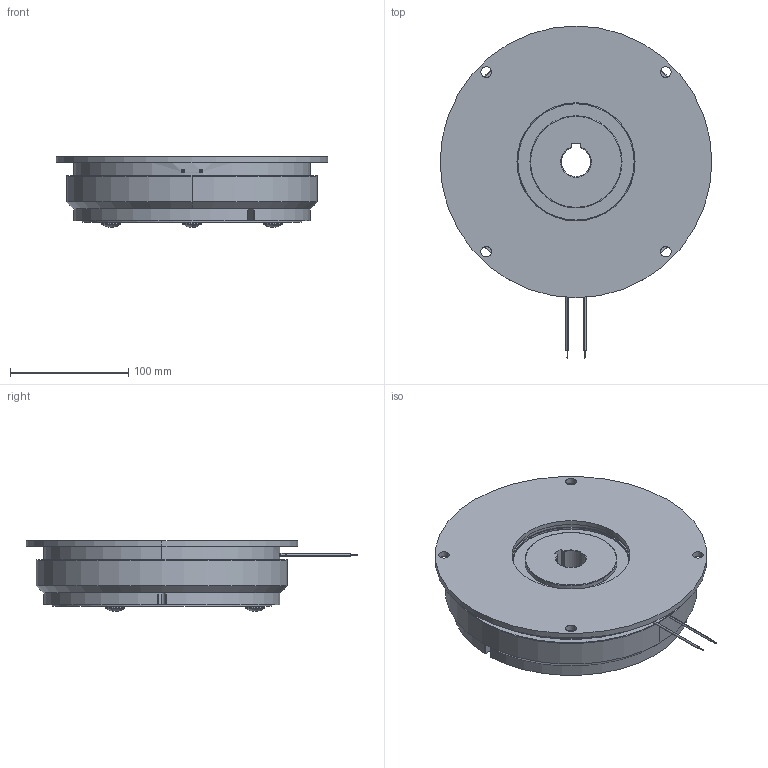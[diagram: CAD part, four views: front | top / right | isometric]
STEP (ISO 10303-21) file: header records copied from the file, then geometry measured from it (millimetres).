
FILE_DESCRIPTION (( 'STEP AP214' ), '1' );
FILE_NAME ('dr_bk_1103-110_mu.STEP', '2021-12-01T08:50:39', ( '' ), ( '' ), 'SwSTEP 2.0', 'SolidWorks 2019', '' );
FILE_SCHEMA (( 'AUTOMOTIVE_DESIGN' ));
Length unit declared in the file: millimetre
Products named in the file (8): dr_bk_1103-110_mu; 10069134_000; 10069122_000; 10068881_000; 10068879_000; 10068877_000; 10068878_000_eingebaut in Ankerteil 11.02.010-0009; 10068876_000
Assembly tree (11 placements, depth 3):
  dr_bk_1103-110_mu
    10069122_000
    10069134_000
    10068876_000
      10068877_000
      10068879_000
      10068878_000_eingebaut in Ankerteil 11.02.010-0009  x3
      10068881_000  x3
Bounding box: 230 x 281 x 60.05 mm (x, y, z)
Volume: 1648423.6 mm3; surface area: 302723.1 mm2
Topology: 12 solids, 12 shells, 255 faces, 598 edges, 374 vertices
Faces by surface type: cylinder 138, plane 46, cone 44, torus 21, sphere 6
Entity records: 7888 total; most frequent: DIRECTION 1219, CARTESIAN_POINT 1218, ORIENTED_EDGE 984, AXIS2_PLACEMENT_3D 515, EDGE_CURVE 492, VERTEX_POINT 314, CIRCLE 291, EDGE_LOOP 266
